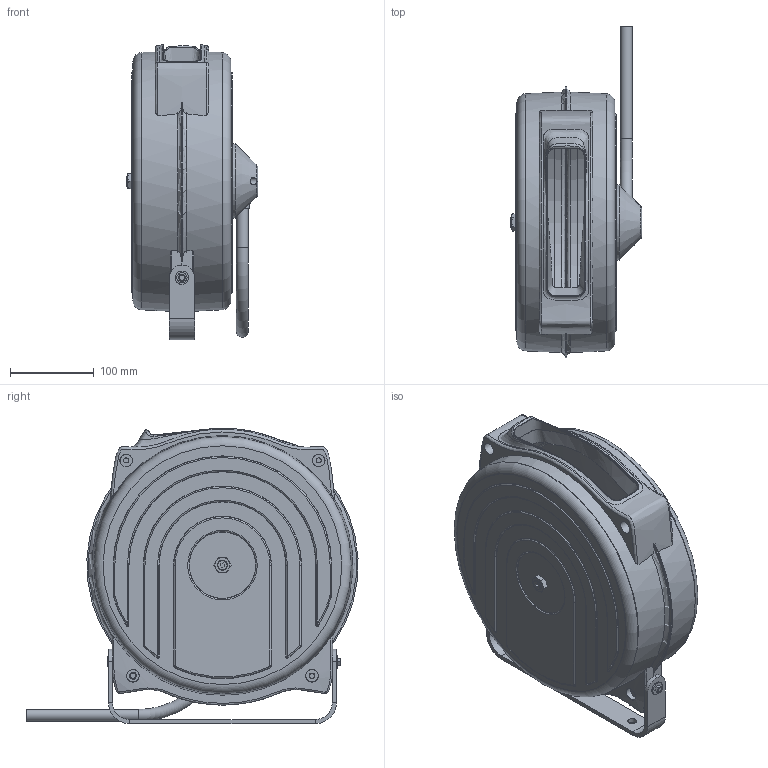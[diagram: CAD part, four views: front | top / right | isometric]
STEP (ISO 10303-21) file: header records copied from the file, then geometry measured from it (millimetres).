
FILE_DESCRIPTION (( 'STEP AP203' ), '1' );
FILE_NAME ('MFP.STEP', '2019-07-25T09:00:54', ( '' ), ( '' ), 'SwSTEP 2.0', 'SolidWorks 2018', '' );
FILE_SCHEMA (( 'CONFIG_CONTROL_DESIGN' ));
Length unit declared in the file: millimetre
Products named in the file (1): MFP
Bounding box: 157 x 396.31 x 352.62 mm (x, y, z)
Surface area: 535963 mm2 (no closed solid volume)
Topology: 0 solids, 25 shells, 275 faces, 1325 edges, 1052 vertices
Faces by surface type: cylinder 75, plane 72, torus 68, bspline 40, cone 20
Full cylindrical faces by diameter (mm): 5 x1, 6 x1, 6.4 x1, 6.5 x3, 8.4 x2, 10 x1, 10.5 x2, 12 x2, 14 x2, 15 x2, 16 x1, 17 x1, 198.5 x1
Entity records: 37725 total; most frequent: CARTESIAN_POINT 28409, ORIENTED_EDGE 2089, DIRECTION 1464, EDGE_CURVE 1251, VERTEX_POINT 1030, B_SPLINE_CURVE_WITH_KNOTS 640, AXIS2_PLACEMENT_3D 617, CIRCLE 381
